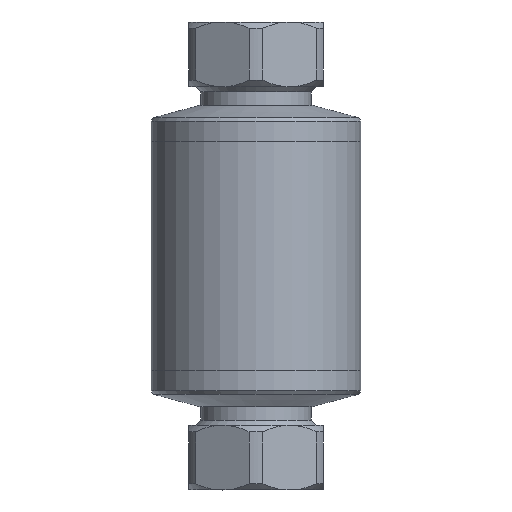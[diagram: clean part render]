
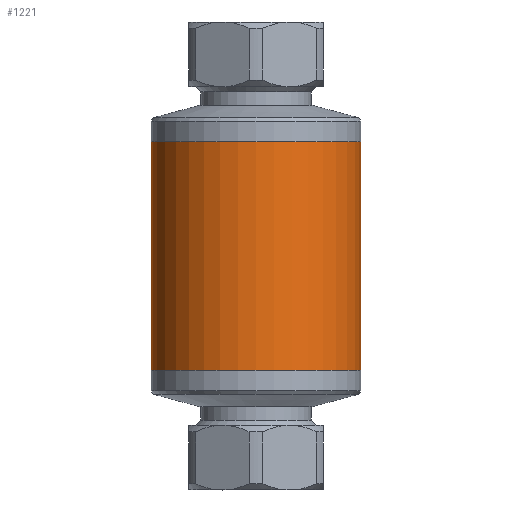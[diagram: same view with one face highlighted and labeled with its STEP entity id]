
A CAD part, front view. The second image highlights one B-rep face of the part: STEP entity #1221.
In plain terms, the highlighted cylindrical face has radius 39 mm (diameter 78 mm), a full revolution.
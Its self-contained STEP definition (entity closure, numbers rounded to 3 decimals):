
#31=ELLIPSE('',#4700,55.154,39.);
#32=ELLIPSE('',#4701,55.154,39.);
#422=LINE('',#17986,#527);
#424=LINE('',#17991,#529);
#527=VECTOR('',#5772,1.);
#529=VECTOR('',#5774,1.);
#1221=ADVANCED_FACE('',(#1468,#1469,#1470),#1312,.T.);
#1312=CYLINDRICAL_SURFACE('',#4702,39.);
#1468=FACE_BOUND('',#1819,.T.);
#1469=FACE_BOUND('',#1820,.T.);
#1470=FACE_BOUND('',#1821,.T.);
#1819=EDGE_LOOP('',(#2966,#2967,#2968,#2969));
#1820=EDGE_LOOP('',(#2970));
#1821=EDGE_LOOP('',(#2971));
#2966=ORIENTED_EDGE('',*,*,#3953,.F.);
#2967=ORIENTED_EDGE('',*,*,#3957,.T.);
#2968=ORIENTED_EDGE('',*,*,#3951,.F.);
#2969=ORIENTED_EDGE('',*,*,#3958,.T.);
#2970=ORIENTED_EDGE('',*,*,#3956,.T.);
#2971=ORIENTED_EDGE('',*,*,#3955,.F.);
#3377=VERTEX_POINT('',#17987);
#3378=VERTEX_POINT('',#17988);
#3379=VERTEX_POINT('',#17990);
#3380=VERTEX_POINT('',#17992);
#3381=VERTEX_POINT('',#17996);
#3382=VERTEX_POINT('',#17999);
#3951=EDGE_CURVE('',#3377,#3378,#422,.T.);
#3953=EDGE_CURVE('',#3379,#3380,#424,.T.);
#3955=EDGE_CURVE('',#3381,#3381,#4210,.T.);
#3956=EDGE_CURVE('',#3382,#3382,#4211,.T.);
#3957=EDGE_CURVE('',#3379,#3378,#31,.T.);
#3958=EDGE_CURVE('',#3377,#3380,#32,.T.);
#4210=CIRCLE('',#4696,39.);
#4211=CIRCLE('',#4698,39.);
#4696=AXIS2_PLACEMENT_3D('',#17995,#5778,#5779);
#4698=AXIS2_PLACEMENT_3D('',#17998,#5782,#5783);
#4700=AXIS2_PLACEMENT_3D('',#18001,#5786,#5787);
#4701=AXIS2_PLACEMENT_3D('',#18002,#5788,#5789);
#4702=AXIS2_PLACEMENT_3D('',#18003,#5790,#5791);
#5772=DIRECTION('',(0.,0.,-1.));
#5774=DIRECTION('',(0.,0.,1.));
#5778=DIRECTION('',(0.,0.,1.));
#5779=DIRECTION('',(1.,0.,0.));
#5782=DIRECTION('',(0.,0.,1.));
#5783=DIRECTION('',(-1.,0.,0.));
#5786=DIRECTION('',(0.,-0.707,-0.707));
#5787=DIRECTION('',(0.,0.707,-0.707));
#5788=DIRECTION('',(0.,-0.707,0.707));
#5789=DIRECTION('',(0.,-0.707,-0.707));
#5790=DIRECTION('',(0.,0.,-1.));
#5791=DIRECTION('',(-1.,0.,0.));
#17986=CARTESIAN_POINT('',(316.696,37.5,28.667));
#17987=CARTESIAN_POINT('',(316.696,37.5,-10.333));
#17988=CARTESIAN_POINT('',(316.696,37.5,-48.333));
#17990=CARTESIAN_POINT('',(289.554,37.5,-48.333));
#17991=CARTESIAN_POINT('',(289.554,37.5,-51.333));
#17992=CARTESIAN_POINT('',(289.554,37.5,-10.333));
#17995=CARTESIAN_POINT('',(303.125,0.938,13.167));
#17996=CARTESIAN_POINT('',(342.125,0.938,13.167));
#17998=CARTESIAN_POINT('',(303.125,0.938,-71.833));
#17999=CARTESIAN_POINT('',(264.125,0.938,-71.833));
#18001=CARTESIAN_POINT('',(303.125,0.938,-11.771));
#18002=CARTESIAN_POINT('',(303.125,0.938,-46.896));
#18003=CARTESIAN_POINT('',(303.125,0.938,28.667));
